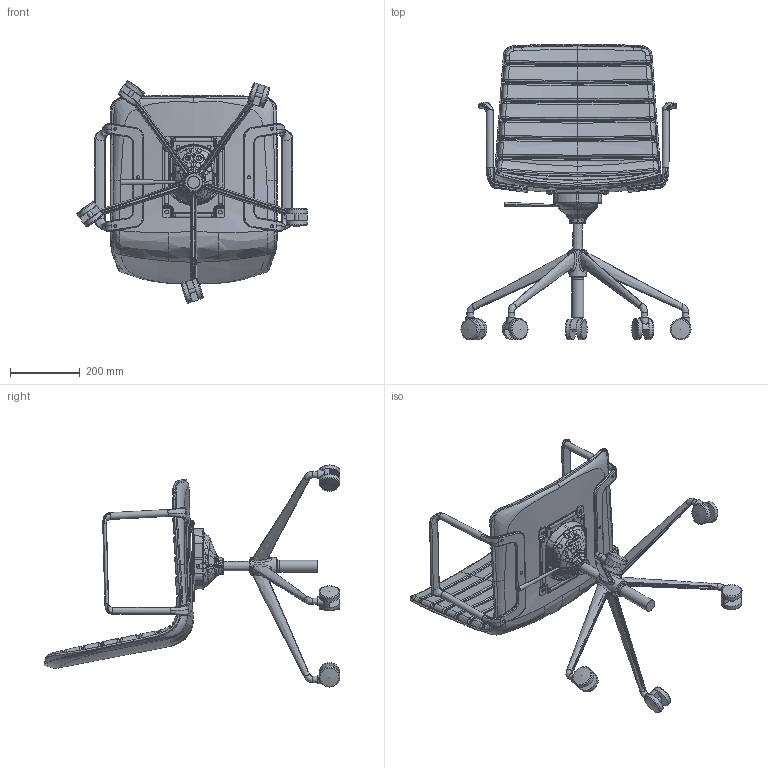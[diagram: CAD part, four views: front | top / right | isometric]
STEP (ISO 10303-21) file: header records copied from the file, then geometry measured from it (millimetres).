
FILE_DESCRIPTION(/* description */ (''),/* implementation_level */ '2;1');
FILE_NAME(/* name */ '23-7-3-3.stp',/* time_stamp */ '2023-07-19T19:36:38+08:00',/* author */ (''),/* organization */ (''),/* preprocessor_version */ 'ST-DEVELOPER v16.7',/* originating_system */ 'SIEMENS PLM Software NX 12.0',/* authorisation */ '');
FILE_SCHEMA (('AUTOMOTIVE_DESIGN { 1 0 10303 214 3 1 1 1 }'));
Products named in the file (1): Admi09F45B210zwa
Bounding box: 659.63 x 848.35 x 637.05 mm (x, y, z)
Volume: 13398507.4 mm3; surface area: 1548256.2 mm2
Topology: 28 solids, 28 shells, 3892 faces, 10012 edges, 6142 vertices
Faces by surface type: bspline 1569, plane 1089, cylinder 768, torus 219, cone 148, sphere 80, extrusion 16, revolution 3
Full cylindrical faces by diameter (mm): 5 x4, 9 x6, 9.973 x5, 10 x5, 11.5 x1, 12.015 x5, 18 x6, 19.8 x4, 25 x5, 34 x1, 38 x1, 60 x10
Entity records: 339127 total; most frequent: CARTESIAN_POINT 257944, ORIENTED_EDGE 19566, DIRECTION 11936, EDGE_CURVE 9783, VERTEX_POINT 6094, AXIS2_PLACEMENT_3D 4547, B_SPLINE_CURVE_WITH_KNOTS 4251, EDGE_LOOP 4109
